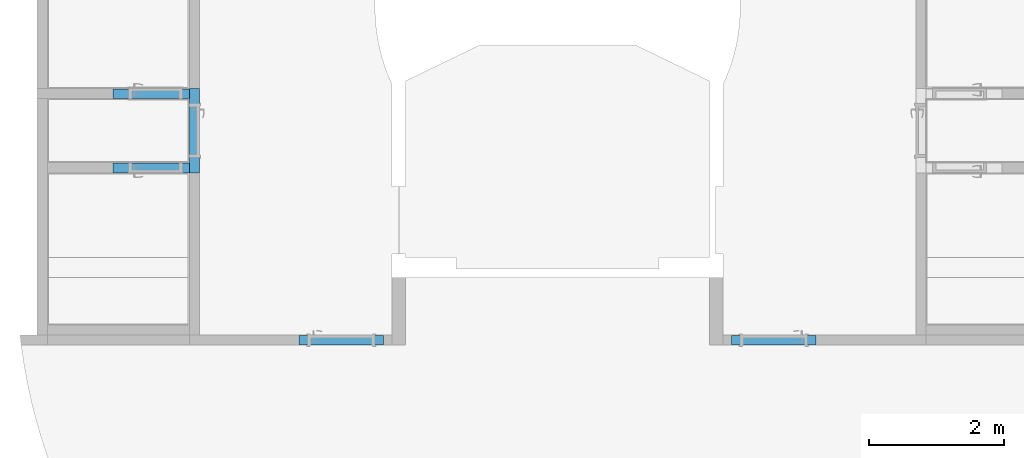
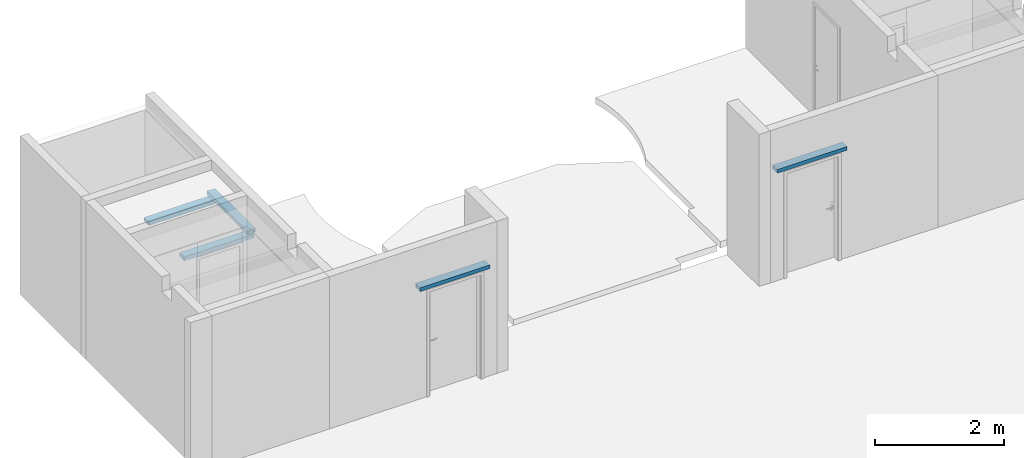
# One storey, part 1 of 17: 5 beams.
"""IFC4 building model written with IfcOpenShell, lengths in millimetres."""

import ifcopenshell
import ifcopenshell.guid

model = None  # the IFC model being written
_history = None  # IfcOwnerHistory: only IFC2X3 demands one
_inside = {}  # id of a spatial element -> (the spatial element, [elements in it])
_under = {}  # id of a project, library or spatial element -> (it, [spatial elements below it])
_declared = {}  # id of a project -> (the project, [libraries it declares])
_typed = {}  # id of a type object -> (the type object, [elements of that type])
_made_of = {}  # id of a material, layer set ... -> (it, [elements and type objects made of it])


def new_model(schema):
    """Start an empty IFC model of exactly this schema.

    Asked for "IFC4X3", IfcOpenShell would pick the latest addendum, in which some entities
    have other attributes; the version numbers below select the first issue.
    IFC2X3 requires an IfcOwnerHistory on every rooted entity: one is made here for all.
    """
    global model, _history
    if schema == "IFC4X3":
        model = ifcopenshell.file(schema_version=(4, 3, 0, 0))
    else:
        model = ifcopenshell.file(schema=schema)
    _inside.clear()
    _under.clear()
    _declared.clear()
    _typed.clear()
    _made_of.clear()
    _history = None
    if model.schema == "IFC2X3":
        org = make("IfcOrganization", Name="unknown")
        user = make(
            "IfcPersonAndOrganization",
            ThePerson=make("IfcPerson", FamilyName="unknown"),
            TheOrganization=org,
        )
        app = make(
            "IfcApplication",
            ApplicationDeveloper=org,
            Version="unknown",
            ApplicationFullName="unknown",
            ApplicationIdentifier="unknown",
        )
        _history = make(
            "IfcOwnerHistory",
            OwningUser=user,
            OwningApplication=app,
            ChangeAction="ADDED",
            CreationDate=0,
        )
    return model


def make(cls, **values):
    """One entity of the class cls with the attributes given. An attribute that is None is left unset."""
    return model.create_entity(
        cls, **{name: value for name, value in values.items() if value is not None}
    )


def entity(cls, *values):
    """Any entity or typed value of the class cls, its attributes in the order of the schema. None: left unset."""
    e = model.create_entity(cls)
    for i, value in enumerate(values):
        if value is not None:
            e[i] = value
    return e


def rooted(cls, **values):
    """An entity with a GlobalId (a new one), such as an element, a storey or a relation."""
    return make(cls, GlobalId=ifcopenshell.guid.new(), OwnerHistory=_history, **values)


def si_unit(unit_type, name, prefix=None):
    """IfcSIUnit, for example si_unit("LENGTHUNIT", "METRE", prefix="MILLI")."""
    return make("IfcSIUnit", UnitType=unit_type, Prefix=prefix, Name=name)


def converted_unit(unit_type, name, factor, base, dimensions=None, offset=None):
    """IfcConversionBasedUnit, such as the inch: factor (a typed value) times the base unit."""
    return make(
        "IfcConversionBasedUnit"
        if offset is None
        else "IfcConversionBasedUnitWithOffset",
        ConversionOffset=offset,
        Dimensions=None
        if dimensions is None
        else entity("IfcDimensionalExponents", *dimensions),
        UnitType=unit_type,
        Name=name,
        ConversionFactor=make(
            "IfcMeasureWithUnit", ValueComponent=factor, UnitComponent=base
        ),
    )


def derived_unit(unit_type, elements):
    """IfcDerivedUnit: a product of units, each with its exponent."""
    return make(
        "IfcDerivedUnit",
        Elements=[
            make("IfcDerivedUnitElement", Unit=unit, Exponent=power)
            for unit, power in elements
        ],
        UnitType=unit_type,
    )


def assignment(units):
    """IfcUnitAssignment: the units of a project."""
    return None if units is None else make("IfcUnitAssignment", Units=units)


def point(xyz):
    """IfcCartesianPoint."""
    return None if xyz is None else make("IfcCartesianPoint", Coordinates=xyz)


def direction(xyz):
    """IfcDirection."""
    return None if xyz is None else make("IfcDirection", DirectionRatios=xyz)


def frame(location, z_axis=None, x_axis=None):
    """IfcAxis2Placement3D, a coordinate frame: its origin and axes. An axis left out is left unset."""
    return make(
        "IfcAxis2Placement3D",
        Location=point(location),
        Axis=direction(z_axis),
        RefDirection=direction(x_axis),
    )


def origin_with_axes():
    """The frame at (0, 0, 0) with the z axis (0, 0, 1) and the x axis (1, 0, 0) written out."""
    return frame((0.0, 0.0, 0.0), z_axis=(0.0, 0.0, 1.0), x_axis=(1.0, 0.0, 0.0))


def place(relative_to, where):
    """IfcLocalPlacement: puts the frame where relative to a parent placement (None: the world)."""
    return make(
        "IfcLocalPlacement", PlacementRelTo=relative_to, RelativePlacement=where
    )


def context(
    kind, dimensions, precision=None, world=None, true_north=None, identifier=None
):
    """IfcGeometricRepresentationContext, for example the 3D "Model" context."""
    return make(
        "IfcGeometricRepresentationContext",
        ContextIdentifier=identifier,
        ContextType=kind,
        CoordinateSpaceDimension=dimensions,
        Precision=precision,
        WorldCoordinateSystem=world,
        TrueNorth=true_north,
    )


def subcontext(parent, identifier, kind, view, scale=None):
    """IfcGeometricRepresentationSubContext, for example "Body" below "Model"."""
    return make(
        "IfcGeometricRepresentationSubContext",
        ContextIdentifier=identifier,
        ContextType=kind,
        ParentContext=parent,
        TargetScale=scale,
        TargetView=view,
    )


def project(units=None, contexts=None):
    """IfcProject with its units and contexts."""
    return rooted(
        "IfcProject",
        Name="project",
        RepresentationContexts=contexts,
        UnitsInContext=assignment(units),
    )


def spatial(cls, under=None, at=None, **own):
    """A site, building, storey or space (cls), placed at a placement, below another one or the project."""
    s = rooted(cls, ObjectPlacement=at, **own)
    if under is not None:
        _under.setdefault(under.id(), (under, []))[1].append(s)
    return s


def point_list(points):
    """IfcCartesianPointList2D or 3D."""
    cls = (
        "IfcCartesianPointList2D" if len(points[0]) == 2 else "IfcCartesianPointList3D"
    )
    return make(cls, CoordList=points)


def polygons(points, faces, closed=None, point_numbers=None):
    """IfcPolygonalFaceSet: a face is its outer loop, then its inner loops; points numbered from 1."""
    made = []
    for loops in faces:
        if len(loops) == 1:
            made.append(make("IfcIndexedPolygonalFace", CoordIndex=loops[0]))
        else:
            made.append(
                make(
                    "IfcIndexedPolygonalFaceWithVoids",
                    CoordIndex=loops[0],
                    InnerCoordIndices=loops[1:],
                )
            )
    return make(
        "IfcPolygonalFaceSet",
        Coordinates=point_list(points),
        Closed=closed,
        Faces=made,
        PnIndex=point_numbers,
    )


def shape(context_of_items, identifier, shape_type, items):
    """IfcShapeRepresentation: the items that make up one representation, for example the "Body"."""
    return make(
        "IfcShapeRepresentation",
        ContextOfItems=context_of_items,
        RepresentationIdentifier=identifier,
        RepresentationType=shape_type,
        Items=items,
    )


def source(mapping_origin, context_of_items, identifier, shape_type, items):
    """IfcRepresentationMap: a shape defined once, which mapped items show again and again."""
    return make(
        "IfcRepresentationMap",
        MappingOrigin=mapping_origin,
        MappedRepresentation=shape(context_of_items, identifier, shape_type, items),
    )


def transform(
    local_origin,
    x_axis=None,
    y_axis=None,
    z_axis=None,
    scale=None,
    scale2=None,
    scale3=None,
    uniform=True,
):
    """IfcCartesianTransformationOperator3D, or its non-uniform kind. x_axis, y_axis, z_axis: its Axis1, 2, 3."""
    if uniform:
        return make(
            "IfcCartesianTransformationOperator3D",
            Axis1=direction(x_axis),
            Axis2=direction(y_axis),
            LocalOrigin=point(local_origin),
            Scale=scale,
            Axis3=direction(z_axis),
        )
    return make(
        "IfcCartesianTransformationOperator3DnonUniform",
        Axis1=direction(x_axis),
        Axis2=direction(y_axis),
        LocalOrigin=point(local_origin),
        Scale=scale,
        Axis3=direction(z_axis),
        Scale2=scale2,
        Scale3=scale3,
    )


def mapped(mapping_source, mapping_target):
    """IfcMappedItem: shows the shape of a source again, moved by a transform."""
    return make(
        "IfcMappedItem", MappingSource=mapping_source, MappingTarget=mapping_target
    )


def made_of(thing, what):
    """Note that an element or type object is made of a material, layer set ...; save() writes the relation."""
    if what is not None:
        _made_of.setdefault(what.id(), (what, []))[1].append(thing)
    return thing


def type_object(cls, material=None, **own):
    """A type object (cls), such as IfcWallType, which elements share."""
    return made_of(rooted(cls, **own), material)


def element(
    cls,
    number,
    at=None,
    inside=None,
    cuts=None,
    type_object=None,
    material=None,
    context=None,
    identifier="Body",
    shape_type=None,
    held_by="IfcProductDefinitionShape",
    body=None,
    shapes=None,
    **own,
):
    """One element of the class cls, such as IfcWall. Its Tag is "e" and its number.

    at: its placement. inside: the storey or other place that contains it. cuts: it is an
    opening in that element (IfcRelVoidsElement). A single representation is given by context,
    identifier, shape_type and body (its items); several are given by shapes. held_by: the class
    of the entity that holds the representations. save() writes the other relations.
    """
    e = rooted(cls, Tag="e%d" % number, ObjectPlacement=at, **own)
    if body is not None:
        shapes = [shape(context, identifier, shape_type, body)]
    if shapes is not None:
        e.Representation = make(held_by, Representations=shapes)
    if inside is not None:
        _inside.setdefault(inside.id(), (inside, []))[1].append(e)
    if cuts is not None:
        rooted(
            "IfcRelVoidsElement", RelatingBuildingElement=cuts, RelatedOpeningElement=e
        )
    if type_object is not None:
        _typed.setdefault(type_object.id(), (type_object, []))[1].append(e)
    return made_of(e, material)


def aggregate(whole, parts):
    """IfcRelAggregates: a whole, such as a stair, and the parts it consists of."""
    return rooted("IfcRelAggregates", RelatingObject=whole, RelatedObjects=parts)


def save(model, path):
    """Write the relations noted so far, then the file.

    IfcRelAggregates (storeys below a building ...), IfcRelContainedInSpatialStructure (elements
    in a storey), IfcRelDefinesByType, IfcRelAssociatesMaterial and IfcRelDeclares: one each for
    every whole, place, type object, material and project.
    """
    for whole, parts in _under.values():
        aggregate(whole, parts)
    for where, things in _inside.values():
        rooted(
            "IfcRelContainedInSpatialStructure",
            RelatedElements=things,
            RelatingStructure=where,
        )
    for kind, things in _typed.values():
        rooted("IfcRelDefinesByType", RelatedObjects=things, RelatingType=kind)
    for what, things in _made_of.values():
        rooted("IfcRelAssociatesMaterial", RelatedObjects=things, RelatingMaterial=what)
    for by, libraries in _declared.values():
        rooted("IfcRelDeclares", RelatingContext=by, RelatedDefinitions=libraries)
    model.write(path)


model = new_model("IFC4")

# Units and contexts
model_context = context("Model", 3, precision=0.01, world=origin_with_axes(), true_north=direction((0.0, 1.0)))
body_context = subcontext(model_context, "Body", "Model", "MODEL_VIEW")
ifc_project = project(units=[si_unit("LENGTHUNIT", "METRE", prefix="MILLI"), si_unit("AREAUNIT", "SQUARE_METRE"), si_unit("VOLUMEUNIT", "CUBIC_METRE"), converted_unit("PLANEANGLEUNIT", "DEGREE", entity("IfcPlaneAngleMeasure", 0.0174532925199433), si_unit("PLANEANGLEUNIT", "RADIAN"), dimensions=[0, 0, 0, 0, 0, 0, 0]), converted_unit("TIMEUNIT", "Year", entity("IfcTimeMeasure", 31557600.0), si_unit("TIMEUNIT", "SECOND"), dimensions=[0, 0, 1, 0, 0, 0, 0]), si_unit("MASSUNIT", "GRAM", prefix="KILO"), si_unit("THERMODYNAMICTEMPERATUREUNIT", "DEGREE_CELSIUS"), si_unit("LUMINOUSINTENSITYUNIT", "LUMEN"), si_unit("ENERGYUNIT", "JOULE", prefix="MEGA"), derived_unit("THERMALCONDUCTANCEUNIT", [(si_unit("POWERUNIT", "WATT"), 1), (si_unit("LENGTHUNIT", "METRE"), -1), (si_unit("THERMODYNAMICTEMPERATUREUNIT", "KELVIN"), -1)]), derived_unit("SPECIFICHEATCAPACITYUNIT", [(si_unit("ENERGYUNIT", "JOULE"), 1), (si_unit("MASSUNIT", "GRAM", prefix="KILO"), -1), (si_unit("THERMODYNAMICTEMPERATUREUNIT", "KELVIN"), -1)]), derived_unit("MASSDENSITYUNIT", [(si_unit("MASSUNIT", "GRAM", prefix="KILO"), 1), (si_unit("VOLUMEUNIT", "CUBIC_METRE"), -1)])], contexts=[model_context])

# Site, building, storey
site_placement = place(None, origin_with_axes())
site = spatial("IfcSite", under=ifc_project, at=site_placement, Name="Exteriér", CompositionType="ELEMENT")
building_placement = place(site_placement, origin_with_axes())
building = spatial("IfcBuilding", under=site, at=building_placement, Name="Univerzitní lezecké centrum", CompositionType="ELEMENT")
storey_placement = place(building_placement, frame((0.0, 0.0, 3200.0), z_axis=(0.0, 0.0, 1.0), x_axis=(1.0, 0.0, 0.0)))
storey = spatial("IfcBuildingStorey", under=building, at=storey_placement, Name="2.NP", CompositionType="ELEMENT", Elevation=3200.0)

# Beams
beam_type = type_object("IfcBeamType", Name="PTH Překlad KP 11,5 a 14,5", PredefinedType="BEAM")
shared_shape = source(origin_with_axes(), body_context, "Body", "Tessellation", [
    polygons([(-625.0, 44.3486623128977, 71.00000000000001), (-625.0, 0.0, 71.00000000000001), (625.0, 0.0, 71.00000000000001), (625.0, 44.34866231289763, 71.00000000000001), (-625.0, 44.34866231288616, 36.49999605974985), (-625.0, 46.47223501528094, 31.73716465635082), (-625.0, 49.39641603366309, 27.4240948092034), (-625.0, 53.02998777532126, 23.69532943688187), (-625.0, 57.25960374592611, 20.66718452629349), (-625.0, 61.95332430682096, 18.4341207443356), (-625.0, 66.96473243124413, 17.06579680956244), (-625.0, 72.13750107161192, 16.60489654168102), (-625.0, 77.31026966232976, 17.06579737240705), (-625.0, 82.32167763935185, 18.43412185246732), (-625.0, 87.01539795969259, 20.66718614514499), (-625.0, 91.24501360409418, 23.69533151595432), (-625.0, 94.87858494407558, 27.42409728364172), (-625.0, 97.80276549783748, 31.7371674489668), (-625.0, 99.92633768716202, 36.49999908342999), (-625.0, 99.926337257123, 71.00000000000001), (-625.0, 144.274998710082, 71.0), (-625.0, 144.274998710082, 0.0), (-625.0, 0.0, 0.0), (-625.0, 11.4425, 10.49963740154), (-625.0, 33.3325, 10.49963740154), (-625.0, 33.3325, 30.49963740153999), (-625.0, 11.4425, 30.49963740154), (-625.0, 11.4425, 40.5), (-625.0, 33.3325, 40.5), (-625.0, 33.33250000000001, 60.5), (-625.0, 11.4425, 60.5), (-625.0, 132.83136377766, 10.49963740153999), (-625.0, 132.83136377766, 30.49963740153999), (-625.0, 110.94136377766, 30.49963740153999), (-625.0, 110.94136377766, 10.49963740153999), (-625.0, 110.94136377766, 60.49999999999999), (-625.0, 110.94136377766, 40.49999999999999), (-625.0, 132.83136377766, 40.49999999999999), (-625.0, 132.83136377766, 60.49999999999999), (625.0, 0.0, 0.0), (625.0, 144.2749987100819, 0.0), (625.0, 144.2749987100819, 71.0), (625.0, 99.92633725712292, 71.00000000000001), (625.0, 99.92633768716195, 36.49999908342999), (625.0, 97.80276549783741, 31.7371674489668), (625.0, 94.87858494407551, 27.42409728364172), (625.0, 91.24501360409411, 23.69533151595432), (625.0, 87.01539795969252, 20.66718614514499), (625.0, 82.32167763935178, 18.43412185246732), (625.0, 77.31026966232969, 17.06579737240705), (625.0, 72.13750107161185, 16.60489654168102), (625.0, 66.96473243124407, 17.06579680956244), (625.0, 61.95332430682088, 18.4341207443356), (625.0, 57.25960374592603, 20.66718452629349), (625.0, 53.02998777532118, 23.69532943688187), (625.0, 49.39641603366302, 27.4240948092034), (625.0, 46.47223501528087, 31.73716465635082), (625.0, 44.34866231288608, 36.49999605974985), (625.0, 11.44249999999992, 10.49963740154), (625.0, 11.44249999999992, 30.49963740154), (625.0, 33.33249999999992, 30.49963740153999), (625.0, 33.33249999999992, 10.49963740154), (625.0, 11.44249999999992, 40.5), (625.0, 11.44249999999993, 60.5), (625.0, 33.33249999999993, 60.5), (625.0, 33.33249999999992, 40.5), (625.0, 132.8313637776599, 10.49963740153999), (625.0, 110.9413637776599, 10.49963740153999), (625.0, 110.9413637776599, 30.49963740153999), (625.0, 132.8313637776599, 30.49963740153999), (625.0, 110.9413637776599, 60.49999999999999), (625.0, 132.8313637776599, 60.49999999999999), (625.0, 132.8313637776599, 40.49999999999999), (625.0, 110.9413637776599, 40.49999999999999)], [[[1, 2, 3, 4]], [[1, 5, 6, 7, 8, 9, 10, 11, 12, 13, 14, 15, 16, 17, 18, 19, 20, 21, 22, 23, 2], [24, 25, 26, 27], [28, 29, 30, 31], [32, 33, 34, 35], [36, 37, 38, 39]], [[2, 23, 40, 3]], [[4, 3, 40, 41, 42, 43, 44, 45, 46, 47, 48, 49, 50, 51, 52, 53, 54, 55, 56, 57, 58], [59, 60, 61, 62], [63, 64, 65, 66], [67, 68, 69, 70], [71, 72, 73, 74]], [[5, 1, 4, 58]], [[6, 5, 58, 57]], [[7, 6, 57, 56]], [[8, 7, 56, 55]], [[9, 8, 55, 54]], [[10, 9, 54, 53]], [[11, 10, 53, 52]], [[12, 11, 52, 51]], [[13, 12, 51, 50]], [[14, 13, 50, 49]], [[15, 14, 49, 48]], [[16, 15, 48, 47]], [[17, 16, 47, 46]], [[18, 17, 46, 45]], [[19, 18, 45, 44]], [[20, 19, 44, 43]], [[21, 20, 43, 42]], [[22, 21, 42, 41]], [[23, 22, 41, 40]], [[25, 24, 59, 62]], [[26, 25, 62, 61]], [[27, 26, 61, 60]], [[24, 27, 60, 59]], [[29, 28, 63, 66]], [[30, 29, 66, 65]], [[31, 30, 65, 64]], [[28, 31, 64, 63]], [[33, 32, 67, 70]], [[34, 33, 70, 69]], [[35, 34, 69, 68]], [[32, 35, 68, 67]], [[37, 36, 71, 74]], [[38, 37, 74, 73]], [[39, 38, 73, 72]], [[36, 39, 72, 71]]], closed=True),
    polygons([(-625.0, 44.34866231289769, 36.5), (-625.0, 46.47223492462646, 31.73716874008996), (625.0, 46.47223492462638, 31.73716874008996), (625.0, 44.34866231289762, 36.5), (-625.0, 44.3486623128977, 71.00000000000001), (-625.0, 99.926337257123, 71.00000000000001), (-625.0, 99.92633725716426, 36.50000000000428), (-625.0, 97.80276464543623, 31.7371687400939), (-625.0, 94.87858377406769, 27.42409899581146), (-625.0, 91.24501222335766, 23.69533367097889), (-625.0, 87.0153964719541, 20.66718874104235), (-625.0, 82.32167614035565, 18.43412486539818), (-625.0, 77.31026823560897, 17.06580075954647), (-625.0, 72.1374997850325, 16.60490024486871), (-625.0, 66.96473133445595, 17.06580075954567), (-625.0, 61.95332342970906, 18.4341248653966), (-625.0, 57.25960309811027, 20.66718874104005), (-625.0, 53.02998734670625, 23.69533367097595), (-625.0, 49.39641579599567, 27.42409899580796), (-625.0, 78.10749978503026, 42.49999925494), (-625.0, 78.01680207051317, 43.54188832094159), (-625.0, 77.74746473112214, 44.55212011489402), (-625.0, 77.30767144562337, 45.49999925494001), (-625.0, 76.71078511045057, 46.35672491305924), (-625.0, 75.97494181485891, 47.09626591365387), (-625.0, 75.12249978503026, 47.69615167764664), (-625.0, 74.17936004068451, 48.13815497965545), (-625.0, 73.17417940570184, 48.40884577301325), (-625.0, 72.13749978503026, 48.49999925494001), (-625.0, 71.1008201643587, 48.40884577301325), (-625.0, 70.09563952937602, 48.13815497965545), (-625.0, 69.15249978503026, 47.69615167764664), (-625.0, 68.30005775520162, 47.09626591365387), (-625.0, 67.56421445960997, 46.35672491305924), (-625.0, 66.96732812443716, 45.49999925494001), (-625.0, 66.5275348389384, 44.55212011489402), (-625.0, 66.25819749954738, 43.54188832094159), (-625.0, 66.16749978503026, 42.49999925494), (-625.0, 66.25819749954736, 41.45811018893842), (-625.0, 66.52753483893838, 40.44787839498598), (-625.0, 66.96732812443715, 39.49999925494), (-625.0, 67.56421445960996, 38.64327359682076), (-625.0, 68.3000577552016, 37.90373259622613), (-625.0, 69.15249978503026, 37.30384683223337), (-625.0, 70.09563952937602, 36.86184353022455), (-625.0, 71.1008201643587, 36.59115273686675), (-625.0, 72.13749978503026, 36.49999925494), (-625.0, 73.17417940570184, 36.59115273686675), (-625.0, 74.17936004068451, 36.86184353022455), (-625.0, 75.12249978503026, 37.30384683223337), (-625.0, 75.9749418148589, 37.90373259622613), (-625.0, 76.71078511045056, 38.64327359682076), (-625.0, 77.30767144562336, 39.49999925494), (-625.0, 77.74746473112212, 40.44787839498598), (-625.0, 78.01680207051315, 41.45811018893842), (625.0, 49.39641579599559, 27.42409899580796), (625.0, 53.02998734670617, 23.69533367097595), (625.0, 57.25960309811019, 20.66718874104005), (625.0, 61.95332342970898, 18.4341248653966), (625.0, 66.96473133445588, 17.06580075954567), (625.0, 72.13749978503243, 16.60490024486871), (625.0, 77.3102682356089, 17.06580075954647), (625.0, 82.32167614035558, 18.43412486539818), (625.0, 87.01539647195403, 20.66718874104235), (625.0, 91.24501222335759, 23.69533367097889), (625.0, 94.87858377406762, 27.42409899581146), (625.0, 97.80276464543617, 31.7371687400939), (625.0, 99.92633725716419, 36.50000000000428), (625.0, 99.92633725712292, 71.00000000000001), (625.0, 44.34866231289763, 71.00000000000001), (625.0, 78.10749978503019, 42.49999925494), (625.0, 78.01680207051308, 41.45811018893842), (625.0, 77.74746473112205, 40.44787839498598), (625.0, 77.30767144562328, 39.49999925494), (625.0, 76.71078511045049, 38.64327359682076), (625.0, 75.97494181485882, 37.90373259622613), (625.0, 75.12249978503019, 37.30384683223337), (625.0, 74.17936004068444, 36.86184353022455), (625.0, 73.17417940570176, 36.59115273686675), (625.0, 72.13749978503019, 36.49999925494), (625.0, 71.10082016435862, 36.59115273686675), (625.0, 70.09563952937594, 36.86184353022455), (625.0, 69.15249978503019, 37.30384683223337), (625.0, 68.30005775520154, 37.90373259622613), (625.0, 67.56421445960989, 38.64327359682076), (625.0, 66.96732812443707, 39.49999925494), (625.0, 66.52753483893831, 40.44787839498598), (625.0, 66.2581974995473, 41.45811018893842), (625.0, 66.16749978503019, 42.49999925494), (625.0, 66.25819749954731, 43.54188832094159), (625.0, 66.52753483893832, 44.55212011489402), (625.0, 66.96732812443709, 45.49999925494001), (625.0, 67.5642144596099, 46.35672491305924), (625.0, 68.30005775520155, 47.09626591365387), (625.0, 69.15249978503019, 47.69615167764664), (625.0, 70.09563952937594, 48.13815497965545), (625.0, 71.10082016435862, 48.40884577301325), (625.0, 72.13749978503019, 48.49999925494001), (625.0, 73.17417940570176, 48.40884577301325), (625.0, 74.17936004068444, 48.13815497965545), (625.0, 75.12249978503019, 47.69615167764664), (625.0, 75.97494181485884, 47.09626591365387), (625.0, 76.7107851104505, 46.35672491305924), (625.0, 77.3076714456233, 45.49999925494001), (625.0, 77.74746473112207, 44.55212011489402), (625.0, 78.0168020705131, 43.54188832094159)], [[[1, 2, 3, 4]], [[1, 5, 6, 7, 8, 9, 10, 11, 12, 13, 14, 15, 16, 17, 18, 19, 2], [20, 21, 22, 23, 24, 25, 26, 27, 28, 29, 30, 31, 32, 33, 34, 35, 36, 37, 38, 39, 40, 41, 42, 43, 44, 45, 46, 47, 48, 49, 50, 51, 52, 53, 54, 55]], [[2, 19, 56, 3]], [[4, 3, 56, 57, 58, 59, 60, 61, 62, 63, 64, 65, 66, 67, 68, 69, 70], [71, 72, 73, 74, 75, 76, 77, 78, 79, 80, 81, 82, 83, 84, 85, 86, 87, 88, 89, 90, 91, 92, 93, 94, 95, 96, 97, 98, 99, 100, 101, 102, 103, 104, 105, 106]], [[5, 1, 4, 70]], [[6, 5, 70, 69]], [[7, 6, 69, 68]], [[8, 7, 68, 67]], [[9, 8, 67, 66]], [[10, 9, 66, 65]], [[11, 10, 65, 64]], [[12, 11, 64, 63]], [[13, 12, 63, 62]], [[14, 13, 62, 61]], [[15, 14, 61, 60]], [[16, 15, 60, 59]], [[17, 16, 59, 58]], [[18, 17, 58, 57]], [[19, 18, 57, 56]], [[21, 20, 71, 106]], [[22, 21, 106, 105]], [[23, 22, 105, 104]], [[24, 23, 104, 103]], [[25, 24, 103, 102]], [[26, 25, 102, 101]], [[27, 26, 101, 100]], [[28, 27, 100, 99]], [[29, 28, 99, 98]], [[30, 29, 98, 97]], [[31, 30, 97, 96]], [[32, 31, 96, 95]], [[33, 32, 95, 94]], [[34, 33, 94, 93]], [[35, 34, 93, 92]], [[36, 35, 92, 91]], [[37, 36, 91, 90]], [[38, 37, 90, 89]], [[39, 38, 89, 88]], [[40, 39, 88, 87]], [[41, 40, 87, 86]], [[42, 41, 86, 85]], [[43, 42, 85, 84]], [[44, 43, 84, 83]], [[45, 44, 83, 82]], [[46, 45, 82, 81]], [[47, 46, 81, 80]], [[48, 47, 80, 79]], [[49, 48, 79, 78]], [[50, 49, 78, 77]], [[51, 50, 77, 76]], [[52, 51, 76, 75]], [[53, 52, 75, 74]], [[54, 53, 74, 73]], [[55, 54, 73, 72]], [[20, 55, 72, 71]]], closed=True),
    polygons([(-625.0, 66.16749978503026, 42.49999925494), (-625.0, 66.25819749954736, 41.45811018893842), (625.0, 66.2581974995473, 41.45811018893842), (625.0, 66.16749978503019, 42.49999925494), (-625.0, 66.25819749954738, 43.54188832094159), (-625.0, 66.5275348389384, 44.55212011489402), (-625.0, 66.96732812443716, 45.49999925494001), (-625.0, 67.56421445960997, 46.35672491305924), (-625.0, 68.30005775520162, 47.09626591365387), (-625.0, 69.15249978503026, 47.69615167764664), (-625.0, 70.09563952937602, 48.13815497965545), (-625.0, 71.1008201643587, 48.40884577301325), (-625.0, 72.13749978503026, 48.49999925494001), (-625.0, 73.17417940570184, 48.40884577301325), (-625.0, 74.17936004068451, 48.13815497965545), (-625.0, 75.12249978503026, 47.69615167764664), (-625.0, 75.97494181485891, 47.09626591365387), (-625.0, 76.71078511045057, 46.35672491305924), (-625.0, 77.30767144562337, 45.49999925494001), (-625.0, 77.74746473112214, 44.55212011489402), (-625.0, 78.01680207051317, 43.54188832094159), (-625.0, 78.10749978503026, 42.49999925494), (-625.0, 78.01680207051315, 41.45811018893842), (-625.0, 77.74746473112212, 40.44787839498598), (-625.0, 77.30767144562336, 39.49999925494), (-625.0, 76.71078511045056, 38.64327359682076), (-625.0, 75.9749418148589, 37.90373259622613), (-625.0, 75.12249978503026, 37.30384683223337), (-625.0, 74.17936004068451, 36.86184353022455), (-625.0, 73.17417940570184, 36.59115273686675), (-625.0, 72.13749978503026, 36.49999925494), (-625.0, 71.1008201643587, 36.59115273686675), (-625.0, 70.09563952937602, 36.86184353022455), (-625.0, 69.15249978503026, 37.30384683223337), (-625.0, 68.3000577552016, 37.90373259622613), (-625.0, 67.56421445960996, 38.64327359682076), (-625.0, 66.96732812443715, 39.49999925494), (-625.0, 66.52753483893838, 40.44787839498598), (625.0, 66.52753483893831, 40.44787839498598), (625.0, 66.96732812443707, 39.49999925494), (625.0, 67.56421445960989, 38.64327359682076), (625.0, 68.30005775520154, 37.90373259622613), (625.0, 69.15249978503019, 37.30384683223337), (625.0, 70.09563952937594, 36.86184353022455), (625.0, 71.10082016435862, 36.59115273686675), (625.0, 72.13749978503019, 36.49999925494), (625.0, 73.17417940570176, 36.59115273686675), (625.0, 74.17936004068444, 36.86184353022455), (625.0, 75.12249978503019, 37.30384683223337), (625.0, 75.97494181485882, 37.90373259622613), (625.0, 76.71078511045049, 38.64327359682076), (625.0, 77.30767144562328, 39.49999925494), (625.0, 77.74746473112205, 40.44787839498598), (625.0, 78.01680207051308, 41.45811018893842), (625.0, 78.10749978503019, 42.49999925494), (625.0, 78.0168020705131, 43.54188832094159), (625.0, 77.74746473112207, 44.55212011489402), (625.0, 77.3076714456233, 45.49999925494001), (625.0, 76.7107851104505, 46.35672491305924), (625.0, 75.97494181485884, 47.09626591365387), (625.0, 75.12249978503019, 47.69615167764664), (625.0, 74.17936004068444, 48.13815497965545), (625.0, 73.17417940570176, 48.40884577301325), (625.0, 72.13749978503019, 48.49999925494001), (625.0, 71.10082016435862, 48.40884577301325), (625.0, 70.09563952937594, 48.13815497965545), (625.0, 69.15249978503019, 47.69615167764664), (625.0, 68.30005775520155, 47.09626591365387), (625.0, 67.5642144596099, 46.35672491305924), (625.0, 66.96732812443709, 45.49999925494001), (625.0, 66.52753483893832, 44.55212011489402), (625.0, 66.25819749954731, 43.54188832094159)], [[[1, 2, 3, 4]], [[1, 5, 6, 7, 8, 9, 10, 11, 12, 13, 14, 15, 16, 17, 18, 19, 20, 21, 22, 23, 24, 25, 26, 27, 28, 29, 30, 31, 32, 33, 34, 35, 36, 37, 38, 2]], [[2, 38, 39, 3]], [[4, 3, 39, 40, 41, 42, 43, 44, 45, 46, 47, 48, 49, 50, 51, 52, 53, 54, 55, 56, 57, 58, 59, 60, 61, 62, 63, 64, 65, 66, 67, 68, 69, 70, 71, 72]], [[5, 1, 4, 72]], [[6, 5, 72, 71]], [[7, 6, 71, 70]], [[8, 7, 70, 69]], [[9, 8, 69, 68]], [[10, 9, 68, 67]], [[11, 10, 67, 66]], [[12, 11, 66, 65]], [[13, 12, 65, 64]], [[14, 13, 64, 63]], [[15, 14, 63, 62]], [[16, 15, 62, 61]], [[17, 16, 61, 60]], [[18, 17, 60, 59]], [[19, 18, 59, 58]], [[20, 19, 58, 57]], [[21, 20, 57, 56]], [[22, 21, 56, 55]], [[23, 22, 55, 54]], [[24, 23, 54, 53]], [[25, 24, 53, 52]], [[26, 25, 52, 51]], [[27, 26, 51, 50]], [[28, 27, 50, 49]], [[29, 28, 49, 48]], [[30, 29, 48, 47]], [[31, 30, 47, 46]], [[32, 31, 46, 45]], [[33, 32, 45, 44]], [[34, 33, 44, 43]], [[35, 34, 43, 42]], [[36, 35, 42, 41]], [[37, 36, 41, 40]], [[38, 37, 40, 39]]], closed=True),
])
for number, where, z_axis, x_axis, name in (
    (1, (-750.2060086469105, -1299.612793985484, 2030.0), (0.0, 0.0, 1.0), (1.0, 0.0, 0.0), "Pk02"),
    (2, (-2850.351766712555, 1875.00000000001, 2130.0), (0.0, 0.0, 1.0), (0.0, 1.0, 0.0), "Pk01"),
    (3, (-3500.351766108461, 1250.031951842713, 2030.0), (0.0, 0.0, 1.0), (1.0, 0.0, 0.0), "Pk01"),
    (4, (5649.951161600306, -1299.612793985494, 2030.0), (0.0, 0.0, 1.0), (1.0, 0.0, 0.0), "Pk02"),
    (5, (-3500.344393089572, 2350.000000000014, 2030.0), (0.0, 0.0, 1.0), (1.0, 0.0, 0.0), "Pk01"),
):
    element("IfcBeam", number, at=place(storey_placement, frame(where, z_axis=z_axis, x_axis=x_axis)), inside=storey, type_object=beam_type, Name=name, PredefinedType="BEAM", context=body_context, shape_type="MappedRepresentation", body=[
        mapped(shared_shape, transform((0.0, 0.0, 0.0))),
    ])

save(model, "model.ifc")
